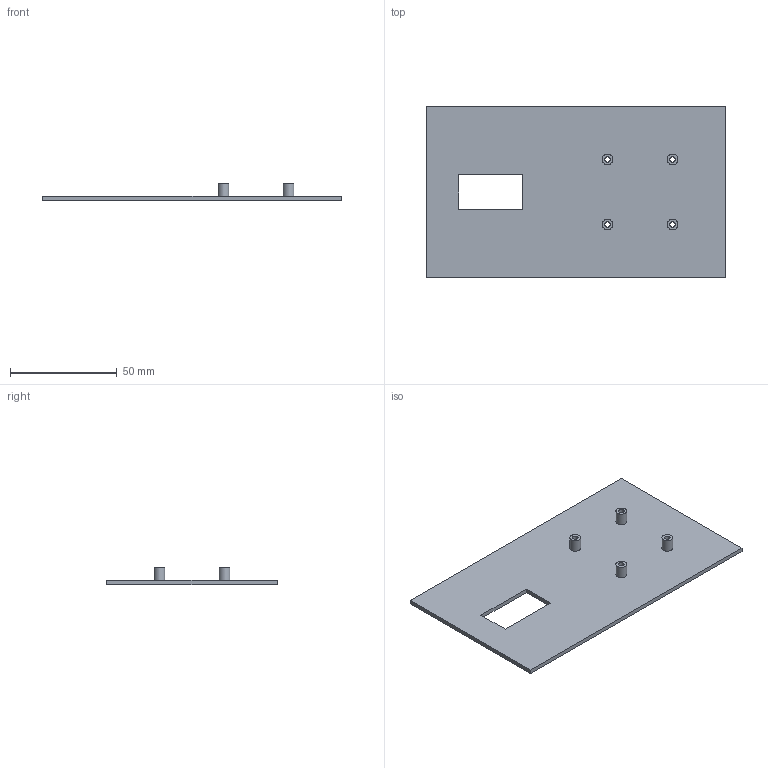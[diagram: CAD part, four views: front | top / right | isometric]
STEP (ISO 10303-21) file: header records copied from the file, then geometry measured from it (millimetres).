
FILE_DESCRIPTION(('FreeCAD Model'),'2;1');
FILE_NAME('Open CASCADE Shape Model','2026-10-26T00:06:28',('FreeCAD'),( 'FreeCAD'),'Open CASCADE STEP processor 8.0','FreeCAD','Unknown');
FILE_SCHEMA(('AUTOMOTIVE_DESIGN { 1 0 10303 214 1 1 1 1 }'));
Length unit declared in the file: millimetre
Products named in the file (1): Open CASCADE STEP translator 8.0 3
Bounding box: 140 x 80 x 7.99 mm (x, y, z)
Volume: 21740.8 mm3; surface area: 23098.9 mm2
Topology: 1 solids, 1 shells, 22 faces, 48 edges, 32 vertices
Faces by surface type: plane 14, cylinder 8
Full cylindrical faces by diameter (mm): 2.6 x4, 5 x4
Entity records: 638 total; most frequent: DIRECTION 110, CARTESIAN_POINT 103, ORIENTED_EDGE 96, EDGE_CURVE 48, AXIS2_PLACEMENT_3D 39, FACE_BOUND 36, EDGE_LOOP 36, VERTEX_POINT 32
